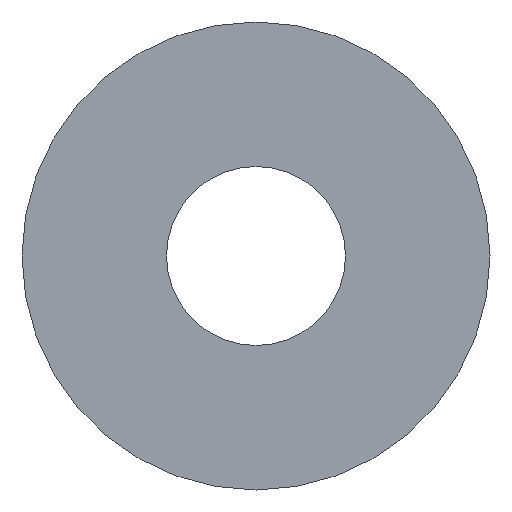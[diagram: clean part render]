
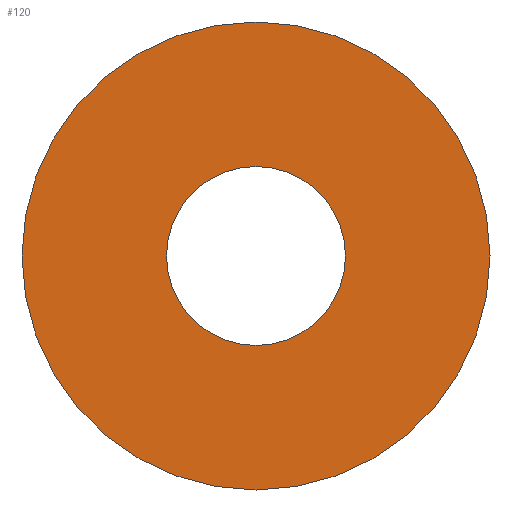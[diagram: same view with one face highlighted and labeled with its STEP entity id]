
A CAD part, front view. The second image highlights one B-rep face of the part: STEP entity #120.
In plain terms, the highlighted planar face has unit normal (0, -1, 0).
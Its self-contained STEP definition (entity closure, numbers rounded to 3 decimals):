
#7 = DIRECTION ( 'NONE',  ( 0., 1., 0. ) ) ;
#24 = CARTESIAN_POINT ( 'NONE',  ( 0., 0., 3.25 ) ) ;
#32 = CIRCLE ( 'NONE', #186, 3.25 ) ;
#33 = CARTESIAN_POINT ( 'NONE',  ( 0., 0., 0. ) ) ;
#41 = DIRECTION ( 'NONE',  ( 0., 0., 1. ) ) ;
#47 = DIRECTION ( 'NONE',  ( 0., 1., 0. ) ) ;
#48 = AXIS2_PLACEMENT_3D ( 'NONE', #221, #191, #149 ) ;
#51 = DIRECTION ( 'NONE',  ( 0., 0., 1. ) ) ;
#53 = CARTESIAN_POINT ( 'NONE',  ( 0., 0., 0. ) ) ;
#55 = ORIENTED_EDGE ( 'NONE', *, *, #111, .F. ) ;
#71 = DIRECTION ( 'NONE',  ( 0., 1., 0. ) ) ;
#75 = CARTESIAN_POINT ( 'NONE',  ( 0., 0., -8.5 ) ) ;
#76 = EDGE_CURVE ( 'NONE', #106, #102, #188, .T. ) ;
#86 = ORIENTED_EDGE ( 'NONE', *, *, #155, .F. ) ;
#87 = DIRECTION ( 'NONE',  ( 0., 0., 1. ) ) ;
#88 = VERTEX_POINT ( 'NONE', #75 ) ;
#102 = VERTEX_POINT ( 'NONE', #24 ) ;
#106 = VERTEX_POINT ( 'NONE', #138 ) ;
#110 = CIRCLE ( 'NONE', #200, 8.5 ) ;
#111 = EDGE_CURVE ( 'NONE', #199, #88, #110, .T. ) ;
#113 = CARTESIAN_POINT ( 'NONE',  ( 0., 0., 0. ) ) ;
#120 = ADVANCED_FACE ( 'NONE', ( #216, #263 ), #140, .F. ) ;
#121 = CARTESIAN_POINT ( 'NONE',  ( 0., 0., 0. ) ) ;
#123 = CIRCLE ( 'NONE', #153, 8.5 ) ;
#138 = CARTESIAN_POINT ( 'NONE',  ( 0., 0., -3.25 ) ) ;
#140 = PLANE ( 'NONE',  #48 ) ;
#143 = EDGE_LOOP ( 'NONE', ( #273, #249 ) ) ;
#146 = AXIS2_PLACEMENT_3D ( 'NONE', #113, #71, #172 ) ;
#149 = DIRECTION ( 'NONE',  ( 0., 0., 1. ) ) ;
#153 = AXIS2_PLACEMENT_3D ( 'NONE', #121, #47, #87 ) ;
#155 = EDGE_CURVE ( 'NONE', #88, #199, #123, .T. ) ;
#170 = EDGE_CURVE ( 'NONE', #102, #106, #32, .T. ) ;
#172 = DIRECTION ( 'NONE',  ( 0., 0., 1. ) ) ;
#177 = DIRECTION ( 'NONE',  ( 0., 1., 0. ) ) ;
#186 = AXIS2_PLACEMENT_3D ( 'NONE', #33, #7, #41 ) ;
#188 = CIRCLE ( 'NONE', #146, 3.25 ) ;
#191 = DIRECTION ( 'NONE',  ( 0., 1., 0. ) ) ;
#199 = VERTEX_POINT ( 'NONE', #265 ) ;
#200 = AXIS2_PLACEMENT_3D ( 'NONE', #53, #177, #51 ) ;
#216 = FACE_OUTER_BOUND ( 'NONE', #252, .T. ) ;
#221 = CARTESIAN_POINT ( 'NONE',  ( 0., 0., 0. ) ) ;
#249 = ORIENTED_EDGE ( 'NONE', *, *, #170, .T. ) ;
#252 = EDGE_LOOP ( 'NONE', ( #86, #55 ) ) ;
#263 = FACE_BOUND ( 'NONE', #143, .T. ) ;
#265 = CARTESIAN_POINT ( 'NONE',  ( 0., 0., 8.5 ) ) ;
#273 = ORIENTED_EDGE ( 'NONE', *, *, #76, .T. ) ;
